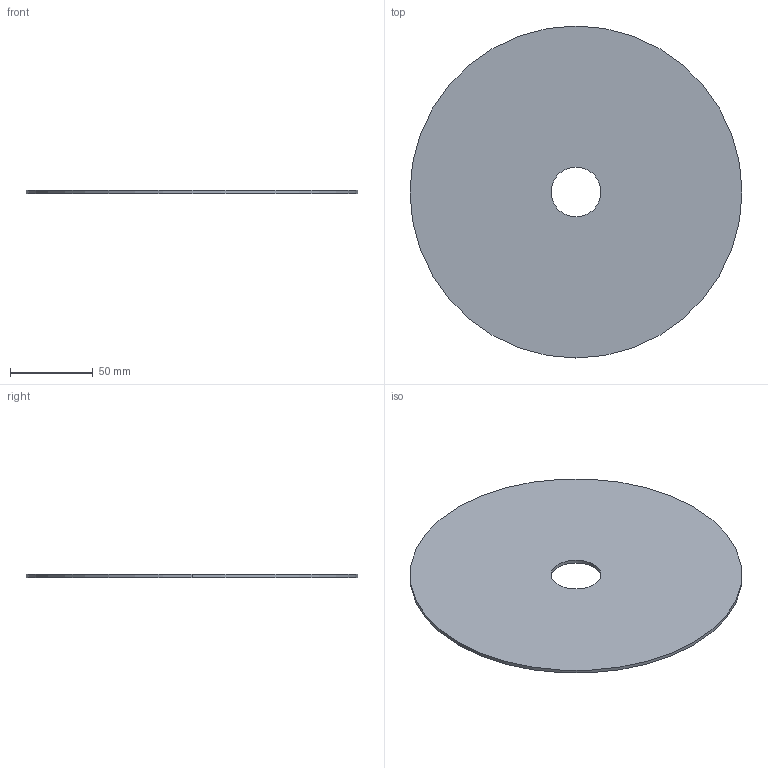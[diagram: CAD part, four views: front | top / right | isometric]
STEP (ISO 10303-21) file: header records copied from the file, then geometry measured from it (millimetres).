
FILE_DESCRIPTION (( 'STEP AP214' ), '1' );
FILE_NAME ('DISCO 20.STEP', '2026-02-11T16:53:06', ( '' ), ( '' ), 'SwSTEP 2.0', 'SolidWorks 2023', '' );
FILE_SCHEMA (( 'AUTOMOTIVE_DESIGN' ));
Length unit declared in the file: millimetre
Products named in the file (1): DISCO 20
Bounding box: 200 x 200 x 2 mm (x, y, z)
Volume: 61418.1 mm3; surface area: 62863.3 mm2
Topology: 1 solids, 1 shells, 6 faces, 12 edges, 8 vertices
Faces by surface type: cylinder 4, plane 2
Entity records: 191 total; most frequent: DIRECTION 34, CARTESIAN_POINT 27, ORIENTED_EDGE 24, AXIS2_PLACEMENT_3D 15, EDGE_CURVE 12, CIRCLE 8, VERTEX_POINT 8, EDGE_LOOP 8
